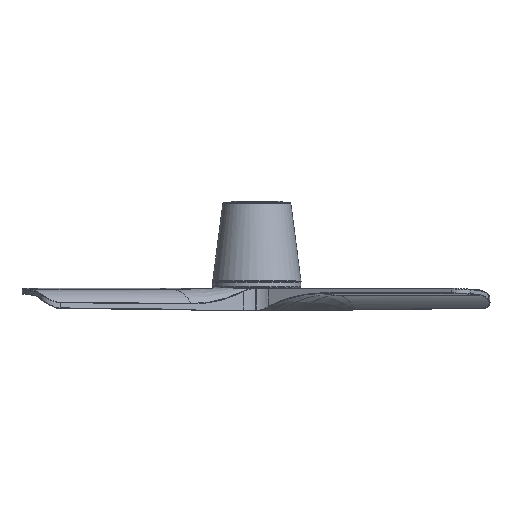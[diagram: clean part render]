
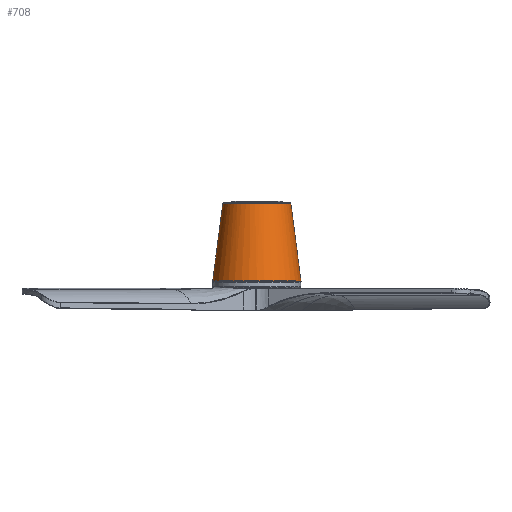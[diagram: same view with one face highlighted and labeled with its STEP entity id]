
A CAD part, front view. The second image highlights one B-rep face of the part: STEP entity #708.
In plain terms, the highlighted free-form (B-spline) face has degree [2, 1] with [9, 2] control points.
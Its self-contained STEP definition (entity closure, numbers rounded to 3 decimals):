
#708=ADVANCED_FACE('',(#974),#4619,.T.);
#974=FACE_OUTER_BOUND('',#1244,.T.);
#1244=EDGE_LOOP('',(#1655,#1656,#1657,#1658));
#1655=ORIENTED_EDGE('',*,*,#2813,.T.);
#1656=ORIENTED_EDGE('',*,*,#2814,.T.);
#1657=ORIENTED_EDGE('',*,*,#2815,.F.);
#1658=ORIENTED_EDGE('',*,*,#2816,.T.);
#2813=EDGE_CURVE('',#4189,#4190,#3408,.T.);
#2814=EDGE_CURVE('',#4190,#4188,#3680,.T.);
#2815=EDGE_CURVE('',#4187,#4188,#3681,.T.);
#2816=EDGE_CURVE('',#4187,#4189,#3682,.T.);
#3408=TRIMMED_CURVE($,#3531,(#7643),(#7644),.T.,.CARTESIAN.);
#3531=CIRCLE('',#4858,78.089);
#3680=B_SPLINE_CURVE_WITH_KNOTS('',1,(#7645,#7646),.UNSPECIFIED.,.F.,.F.,
(2,2),(0.,138.133),.UNSPECIFIED.);
#3681=B_SPLINE_CURVE_WITH_KNOTS('',3,(#7647,#7648,#7649,#7650,#7651,#7652,
#7653,#7654,#7655,#7656),.UNSPECIFIED.,.F.,.F.,(4,1,1,1,1,1,1,4),(-193.062,
-165.482,-137.901,-110.321,-82.741,
-55.161,-27.58,0.),.UNSPECIFIED.);
#3682=B_SPLINE_CURVE_WITH_KNOTS('',1,(#7657,#7658),.UNSPECIFIED.,.F.,.F.,
(2,2),(0.,138.133),.UNSPECIFIED.);
#4187=VERTEX_POINT('',#6954);
#4188=VERTEX_POINT('',#6955);
#4189=VERTEX_POINT('',#6956);
#4190=VERTEX_POINT('',#6957);
#4619=(
BOUNDED_SURFACE()
B_SPLINE_SURFACE(2,1,((#6329,#6330),(#6331,#6332),(#6333,#6334),(#6335,
#6336),(#6337,#6338),(#6339,#6340),(#6341,#6342),(#6343,#6344),(#6345,#6346)),
 .UNSPECIFIED.,.T.,.F.,.F.)
B_SPLINE_SURFACE_WITH_KNOTS((3,2,2,2,3),(2,2),(0.,125.517,251.035,
376.552,502.07),(0.,166.002),.UNSPECIFIED.)
GEOMETRIC_REPRESENTATION_ITEM()
RATIONAL_B_SPLINE_SURFACE(((1.,1.),(0.707,0.707),
(1.,1.),(0.707,0.707),(1.,1.),(0.707,
0.707),(1.,1.),(0.707,0.707),(1.,1.)))
REPRESENTATION_ITEM('')
SURFACE()
);
#4858=AXIS2_PLACEMENT_3D($,#7642,#5154,#5155);
#5154=DIRECTION('',(0.,0.,1.));
#5155=DIRECTION('',(-1.,0.,0.));
#6329=CARTESIAN_POINT('',(8612.42,-1903.98,230.487));
#6330=CARTESIAN_POINT('',(8612.42,-1882.32,65.904));
#6331=CARTESIAN_POINT('',(8670.666,-1903.98,230.487));
#6332=CARTESIAN_POINT('',(8692.327,-1882.32,65.904));
#6333=CARTESIAN_POINT('',(8670.666,-1962.226,230.487));
#6334=CARTESIAN_POINT('',(8692.327,-1962.226,65.904));
#6335=CARTESIAN_POINT('',(8670.666,-2020.473,230.487));
#6336=CARTESIAN_POINT('',(8692.327,-2042.133,65.904));
#6337=CARTESIAN_POINT('',(8612.42,-2020.473,230.487));
#6338=CARTESIAN_POINT('',(8612.42,-2042.133,65.904));
#6339=CARTESIAN_POINT('',(8554.174,-2020.473,230.487));
#6340=CARTESIAN_POINT('',(8532.513,-2042.133,65.904));
#6341=CARTESIAN_POINT('',(8554.174,-1962.226,230.487));
#6342=CARTESIAN_POINT('',(8532.513,-1962.226,65.904));
#6343=CARTESIAN_POINT('',(8554.174,-1903.98,230.487));
#6344=CARTESIAN_POINT('',(8532.513,-1882.32,65.904));
#6345=CARTESIAN_POINT('',(8612.42,-1903.98,230.487));
#6346=CARTESIAN_POINT('',(8612.42,-1882.32,65.904));
#6954=CARTESIAN_POINT('',(8552.355,-1962.226,216.672));
#6955=CARTESIAN_POINT('',(8672.484,-1962.226,216.672));
#6956=CARTESIAN_POINT('',(8534.331,-1962.226,79.719));
#6957=CARTESIAN_POINT('',(8690.508,-1962.226,79.719));
#7642=CARTESIAN_POINT('',(8612.42,-1962.226,79.719));
#7643=CARTESIAN_POINT('',(8534.331,-1962.226,79.719));
#7644=CARTESIAN_POINT('',(8690.508,-1962.226,79.719));
#7645=CARTESIAN_POINT('',(8690.508,-1962.226,79.719));
#7646=CARTESIAN_POINT('',(8672.484,-1962.226,216.672));
#7647=CARTESIAN_POINT('',(8552.355,-1962.226,216.672));
#7648=CARTESIAN_POINT('',(8552.224,-1971.273,216.672));
#7649=CARTESIAN_POINT('',(8556.517,-1989.148,216.672));
#7650=CARTESIAN_POINT('',(8573.675,-2010.798,216.672));
#7651=CARTESIAN_POINT('',(8598.603,-2022.782,216.672));
#7652=CARTESIAN_POINT('',(8626.236,-2022.782,216.672));
#7653=CARTESIAN_POINT('',(8651.164,-2010.798,216.672));
#7654=CARTESIAN_POINT('',(8668.322,-1989.148,216.672));
#7655=CARTESIAN_POINT('',(8672.615,-1971.273,216.672));
#7656=CARTESIAN_POINT('',(8672.484,-1962.226,216.672));
#7657=CARTESIAN_POINT('',(8552.355,-1962.226,216.672));
#7658=CARTESIAN_POINT('',(8534.331,-1962.226,79.719));
